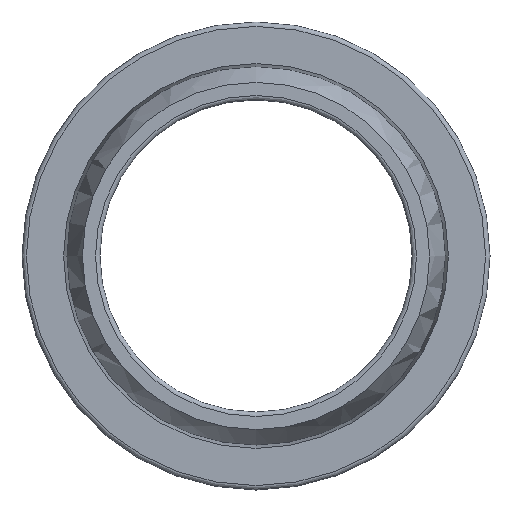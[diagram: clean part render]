
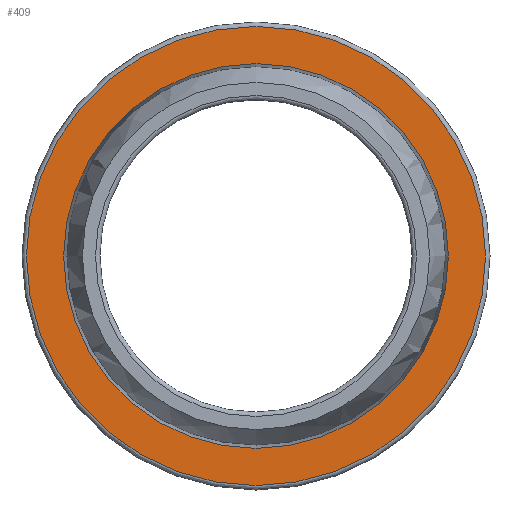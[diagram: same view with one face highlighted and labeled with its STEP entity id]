
A CAD part, left-side view. The second image highlights one B-rep face of the part: STEP entity #409.
In plain terms, the highlighted planar face has unit normal (-1, 0, 0).
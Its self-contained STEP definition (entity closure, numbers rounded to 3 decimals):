
#31=PLANE('',#466);
#74=FACE_BOUND('',#173,.T.);
#116=FACE_OUTER_BOUND('',#172,.T.);
#172=EDGE_LOOP('',(#364));
#173=EDGE_LOOP('',(#365));
#207=CIRCLE('',#465,43.16);
#208=CIRCLE('',#467,51.5);
#245=VERTEX_POINT('',#968);
#246=VERTEX_POINT('',#971);
#287=EDGE_CURVE('',#245,#245,#207,.T.);
#288=EDGE_CURVE('',#246,#246,#208,.T.);
#364=ORIENTED_EDGE('',*,*,#288,.F.);
#365=ORIENTED_EDGE('',*,*,#287,.T.);
#409=ADVANCED_FACE('',(#116,#74),#31,.T.);
#465=AXIS2_PLACEMENT_3D('',#969,#575,#576);
#466=AXIS2_PLACEMENT_3D('',#970,#577,#578);
#467=AXIS2_PLACEMENT_3D('',#972,#579,#580);
#575=DIRECTION('center_axis',(1.,0.,0.));
#576=DIRECTION('ref_axis',(0.,0.,-1.));
#577=DIRECTION('center_axis',(-1.,0.,0.));
#578=DIRECTION('ref_axis',(0.,0.,1.));
#579=DIRECTION('center_axis',(1.,0.,0.));
#580=DIRECTION('ref_axis',(0.,0.,-1.));
#968=CARTESIAN_POINT('',(-22.,43.16,0.));
#969=CARTESIAN_POINT('Origin',(-22.,0.,0.));
#970=CARTESIAN_POINT('Origin',(-22.,51.5,0.));
#971=CARTESIAN_POINT('',(-22.,51.5,0.));
#972=CARTESIAN_POINT('Origin',(-22.,0.,0.));
